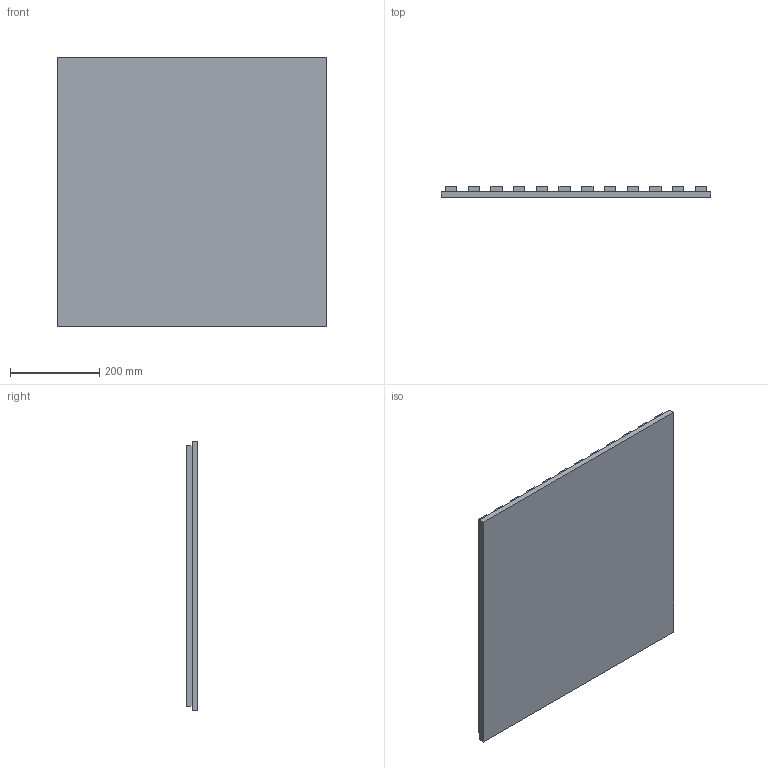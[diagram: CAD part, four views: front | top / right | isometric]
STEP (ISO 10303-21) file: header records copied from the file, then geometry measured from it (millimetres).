
FILE_DESCRIPTION(/* description */ (''),/* implementation_level */ '2;1');
FILE_NAME(/* name */ 'C:\Users\Grant Baker\Desktop\Projects\Slatta\Slatta_Tile_2x2_0.50.stp',/* time_stamp */ '2024-03-19T10:03:08-05:00',/* author */ ('Grant Baker'),/* organization */ (''),/* preprocessor_version */ 'ST-DEVELOPER v19',/* originating_system */ 'Autodesk Inventor 2023',/* authorisation */ '');
FILE_SCHEMA (('AUTOMOTIVE_DESIGN { 1 0 10303 214 3 1 1 }'));
Length unit declared in the file: inch
Products named in the file (3): Slatta_Tile_2x2_0.50; Slatta_Tile - Backer; Slatta_Tile - Slat
Assembly tree (13 placements, depth 2):
  Slatta_Tile_2x2_0.50
    Slatta_Tile - Backer
    Slatta_Tile - Slat  x12
Bounding box: 603.25 x 25.4 x 603.25 mm (x, y, z)
Volume: 6883079 mm3; surface area: 1300400.6 mm2
Topology: 13 solids, 13 shells, 78 faces, 156 edges, 104 vertices
Faces by surface type: plane 78
Entity records: 505 total; most frequent: DIRECTION 80, CARTESIAN_POINT 68, ORIENTED_EDGE 48, AXIS2_PLACEMENT_3D 28, LINE 24, VECTOR 24, EDGE_CURVE 24, VERTEX_POINT 16
